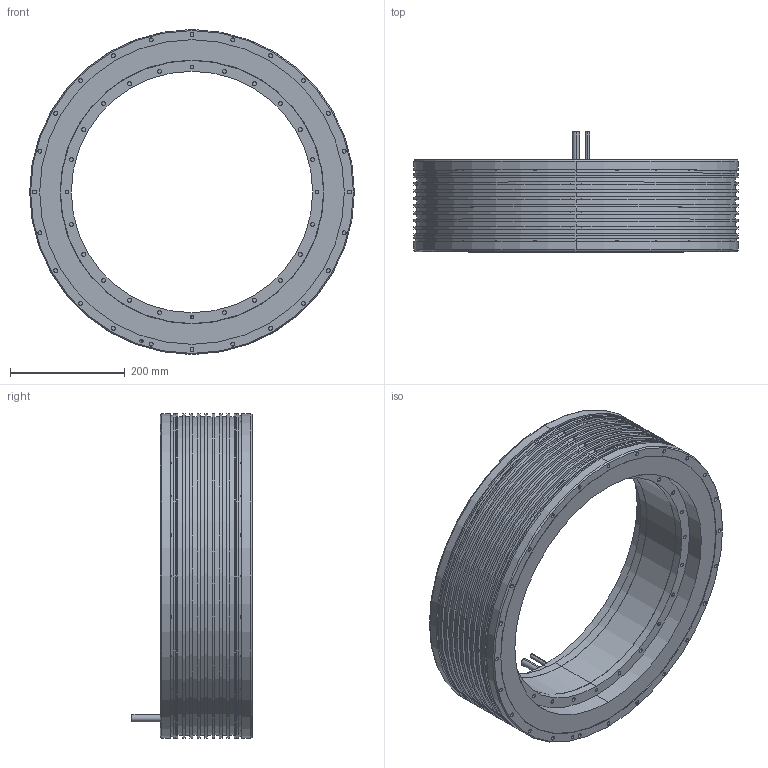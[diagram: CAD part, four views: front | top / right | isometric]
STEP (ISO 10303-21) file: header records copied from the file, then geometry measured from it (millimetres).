
FILE_DESCRIPTION (( 'STEP AP203' ), '1' );
FILE_NAME ('TM-2-GA.STEP', '2021-07-06T08:45:40', ( '' ), ( '' ), 'SwSTEP 2.0', 'SolidWorks 2015', '' );
FILE_SCHEMA (( 'CONFIG_CONTROL_DESIGN' ));
Length unit declared in the file: millimetre
Products named in the file (3): TM-2-GX_rotor_TM-2-GA_rotor; TM-2-GA; TM-2-GX_stator_TM-2-GA_stator
Assembly tree (2 placements, depth 2):
  TM-2-GA
    TM-2-GX_stator_TM-2-GA_stator
    TM-2-GX_rotor_TM-2-GA_rotor
Bounding box: 565 x 209 x 565 mm (x, y, z)
Volume: 15428965.3 mm3; surface area: 1210213 mm2
Topology: 2 solids, 2 shells, 418 faces, 876 edges, 564 vertices
Faces by surface type: cylinder 257, plane 145, cone 16
Entity records: 11611 total; most frequent: DIRECTION 2232, CARTESIAN_POINT 1855, ORIENTED_EDGE 1736, AXIS2_PLACEMENT_3D 941, EDGE_CURVE 868, VERTEX_POINT 564, EDGE_LOOP 532, CIRCLE 518
